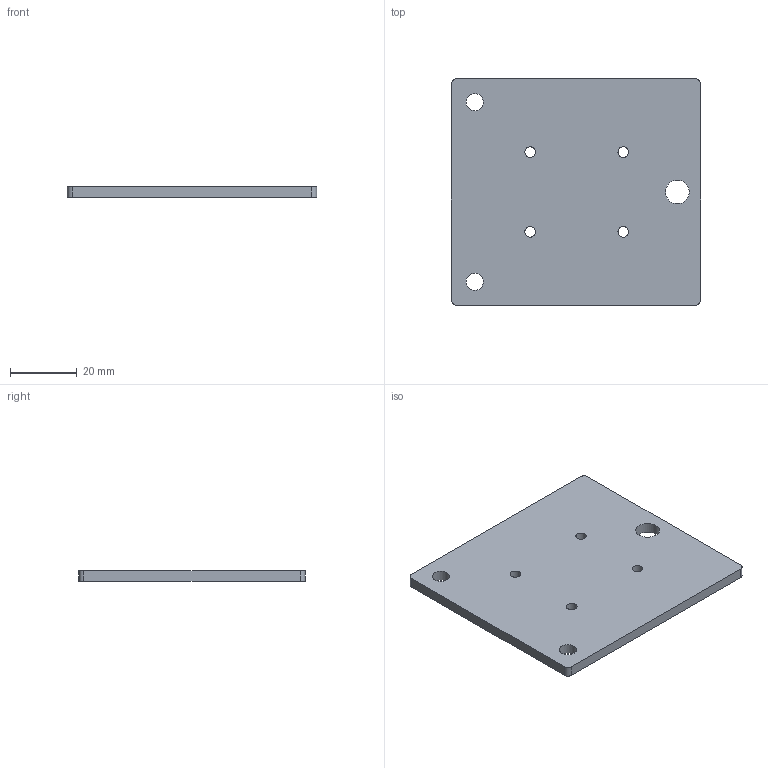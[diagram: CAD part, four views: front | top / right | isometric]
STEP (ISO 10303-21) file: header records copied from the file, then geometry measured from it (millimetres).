
FILE_DESCRIPTION(('Open CASCADE Model'),'2;1');
FILE_NAME('Open CASCADE Shape Model','2026-06-10T15:21:53',('Author'),( 'Open CASCADE'),'Open CASCADE STEP processor 7.8','Open CASCADE 7.8' ,'Unknown');
FILE_SCHEMA(('AUTOMOTIVE_DESIGN { 1 0 10303 214 1 1 1 1 }'));
Length unit declared in the file: millimetre
Products named in the file (1): Open CASCADE STEP translator 7.8 1
Bounding box: 74.9 x 68 x 3.17 mm (x, y, z)
Volume: 15802.1 mm3; surface area: 11155.5 mm2
Topology: 1 solids, 1 shells, 17 faces, 45 edges, 30 vertices
Faces by surface type: cylinder 11, plane 6
Full cylindrical faces by diameter (mm): 3.2 x4, 5.2 x2, 7.1 x1
Entity records: 1176 total; most frequent: CARTESIAN_POINT 207, DIRECTION 189, LINE 91, VECTOR 91, ORIENTED_EDGE 90, PCURVE 90, DEFINITIONAL_REPRESENTATION 90, EDGE_CURVE 45
